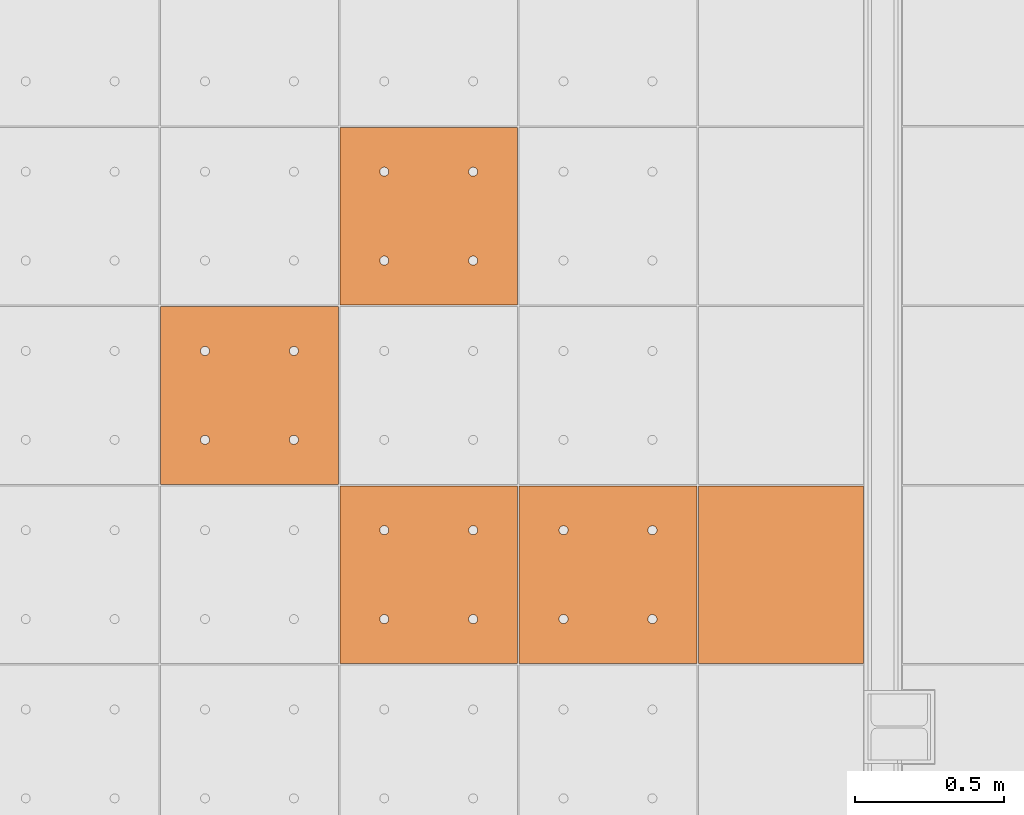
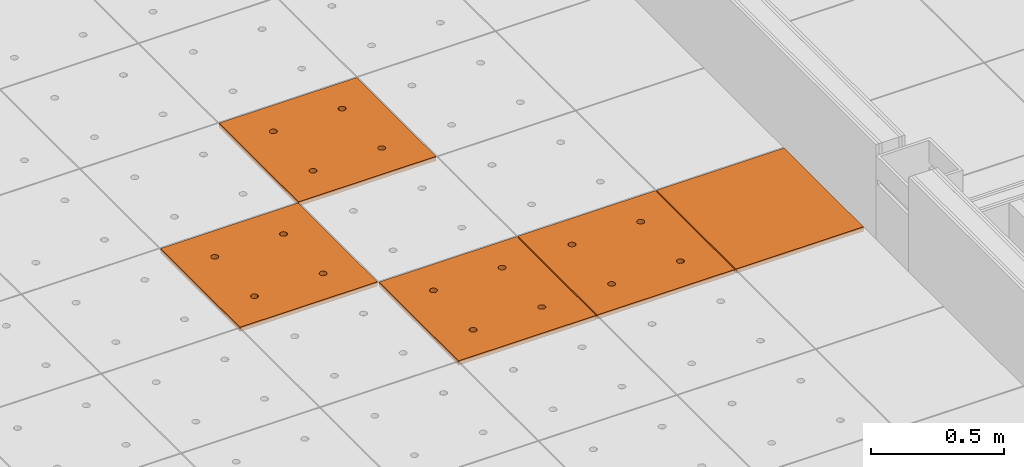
# One storey, part 305 of 338: 5 proxies, 1 element without a shape of its own.
"""IFC2X3 building model written with IfcOpenShell, lengths in millimetres."""

from ifc_helpers import new_model, entity, si_unit, converted_unit, derived_unit, money_unit, direction, frame, origin_with_axes, place, context, subcontext, project, spatial, faceted_brep, source, transform, mapped, material, type_object, type_shapes, element, aggregate, save


model = new_model("IFC2X3")

# Units and contexts
model_context = context("Model", 3, precision=0.01, world=origin_with_axes(), true_north=direction((0.0, 1.0)))
plan_context = context("Plan", 3, precision=0.01, world=origin_with_axes(), true_north=direction((0.0, 1.0)))
body_context = subcontext(model_context, "Body", "Model", "MODEL_VIEW")
ifc_project = project(units=[si_unit("LENGTHUNIT", "METRE", prefix="MILLI"), si_unit("AREAUNIT", "SQUARE_METRE"), si_unit("VOLUMEUNIT", "CUBIC_METRE"), converted_unit("PLANEANGLEUNIT", "DEGREE", entity("IfcPlaneAngleMeasure", 0.0174532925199), si_unit("PLANEANGLEUNIT", "RADIAN"), dimensions=[0, 0, 0, 0, 0, 0, 0]), money_unit("EUR"), converted_unit("TIMEUNIT", "Year", entity("IfcTimeMeasure", 31556926.0), si_unit("TIMEUNIT", "SECOND"), dimensions=[0, 0, 1, 0, 0, 0, 0]), si_unit("MASSUNIT", "GRAM", prefix="KILO"), si_unit("THERMODYNAMICTEMPERATUREUNIT", "DEGREE_CELSIUS"), si_unit("LUMINOUSINTENSITYUNIT", "LUMEN"), si_unit("ENERGYUNIT", "JOULE", prefix="MEGA"), derived_unit("THERMALCONDUCTANCEUNIT", [(si_unit("POWERUNIT", "WATT"), 1), (si_unit("LENGTHUNIT", "METRE"), -1), (si_unit("THERMODYNAMICTEMPERATUREUNIT", "KELVIN"), -1)]), derived_unit("SPECIFICHEATCAPACITYUNIT", [(si_unit("ENERGYUNIT", "JOULE"), 1), (si_unit("MASSUNIT", "GRAM", prefix="KILO"), -1), (si_unit("THERMODYNAMICTEMPERATUREUNIT", "KELVIN"), -1)]), derived_unit("MASSDENSITYUNIT", [(si_unit("MASSUNIT", "GRAM", prefix="KILO"), 1), (si_unit("VOLUMEUNIT", "CUBIC_METRE"), -1)])], contexts=[model_context, plan_context])

# Site, building, storey
site_placement = place(None, origin_with_axes())
site = spatial("IfcSite", under=ifc_project, at=site_placement, Name="Fortuinstraat Woensdrecht", CompositionType="ELEMENT")
building_placement = place(site_placement, origin_with_axes())
building = spatial("IfcBuilding", under=site, at=building_placement, Name="IKC Fortuna", CompositionType="ELEMENT")
storey_placement = place(building_placement, origin_with_axes())
storey = spatial("IfcBuildingStorey", under=building, at=storey_placement, Name="00 begane grond", CompositionType="ELEMENT", Elevation=0.0)

# Covering, proxies
covering_type = type_object("IfcCoveringType", Name="Curtain Wall Type", PredefinedType="CEILING")
covering_placement = place(storey_placement, frame((24394.3550152, 31482.3495284, 3210.0), z_axis=(0.0, 0.0, 1.0), x_axis=(1.0, 0.0, 0.0)))
covering = element("IfcCovering", 1, at=covering_placement, inside=storey, type_object=covering_type, Name="45_Plafondafwerking_P01", PredefinedType="CEILING")
ifc_material = material(Name="Gipsplaat")
building_element_proxy_type_1 = type_object("IfcBuildingElementProxyType", Name="Main Panel 600 x 600 x 20", PredefinedType="NOTDEFINED")
shared_shape_1 = source(origin_with_axes(), body_context, "Body", "Brep", [
    faceted_brep([(2.49999999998, 2.49999999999, -10.0), (300.0, 2.49999999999, -10.0), (300.0, 2.49999999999, 10.0), (2.49999999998, 2.49999999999, 10.0), (2.49999999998, 300.0, -10.0), (2.49999999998, 597.5, -10.0), (300.0, 597.5, -10.0), (597.5, 597.5, -10.0), (597.5, 300.0, -10.0), (597.5, 2.49999999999, -10.0), (166.25, 450.06232995, -10.0), (165.79423259, 452.64711538, -10.0), (164.896546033, 455.11348892, -10.0), (163.58421608, 457.38651108, -10.0), (161.897117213, 459.39711721, -10.0), (159.886511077, 461.08421608, -10.0), (157.613488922, 462.39654603, -10.0), (155.147115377, 463.29423259, -10.0), (152.562329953, 463.75, -10.0), (149.937670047, 463.75, -10.0), (147.352884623, 463.29423259, -10.0), (144.886511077, 462.39654603, -10.0), (142.613488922, 461.08421608, -10.0), (140.602882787, 459.39711721, -10.0), (138.91578392, 457.38651108, -10.0), (137.603453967, 455.11348892, -10.0), (136.705767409, 452.64711538, -10.0), (136.25, 450.06232995, -10.0), (136.25, 448.75, -10.0), (136.25, 447.43767005, -10.0), (136.705767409, 444.85288462, -10.0), (137.603453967, 442.38651108, -10.0), (138.91578392, 440.11348892, -10.0), (140.602882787, 438.10288279, -10.0), (142.613488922, 436.41578392, -10.0), (144.886511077, 435.10345397, -10.0), (147.352884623, 434.20576741, -10.0), (149.937670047, 433.75, -10.0), (152.562329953, 433.75, -10.0), (155.147115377, 434.20576741, -10.0), (157.613488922, 435.10345397, -10.0), (159.886511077, 436.41578392, -10.0), (161.897117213, 438.10288279, -10.0), (163.58421608, 440.11348892, -10.0), (164.896546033, 442.38651108, -10.0), (165.79423259, 444.85288462, -10.0), (166.25, 447.43767005, -10.0), (463.75, 450.06232995, -10.0), (463.29423259, 452.64711538, -10.0), (462.396546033, 455.11348892, -10.0), (461.08421608, 457.38651108, -10.0), (459.397117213, 459.39711721, -10.0), (457.386511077, 461.08421608, -10.0), (455.113488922, 462.39654603, -10.0), (452.647115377, 463.29423259, -10.0), (450.062329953, 463.75, -10.0), (447.437670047, 463.75, -10.0), (444.852884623, 463.29423259, -10.0), (442.386511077, 462.39654603, -10.0), (440.113488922, 461.08421608, -10.0), (438.102882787, 459.39711721, -10.0), (436.41578392, 457.38651108, -10.0), (435.103453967, 455.11348892, -10.0), (434.205767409, 452.64711538, -10.0), (433.75, 450.06232995, -10.0), (433.75, 448.75, -10.0), (433.75, 447.43767005, -10.0), (434.205767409, 444.85288462, -10.0), (435.103453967, 442.38651108, -10.0), (436.41578392, 440.11348892, -10.0), (438.102882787, 438.10288279, -10.0), (440.113488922, 436.41578392, -10.0), (442.386511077, 435.10345397, -10.0), (444.852884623, 434.20576741, -10.0), (447.437670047, 433.75, -10.0), (450.062329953, 433.75, -10.0), (452.647115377, 434.20576741, -10.0), (455.113488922, 435.10345397, -10.0), (457.386511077, 436.41578392, -10.0), (459.397117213, 438.10288279, -10.0), (461.08421608, 440.11348892, -10.0), (462.396546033, 442.38651108, -10.0), (463.29423259, 444.85288462, -10.0), (463.75, 447.43767005, -10.0), (463.75, 152.56232995, -10.0), (463.29423259, 155.14711538, -10.0), (462.396546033, 157.61348892, -10.0), (461.08421608, 159.88651108, -10.0), (459.397117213, 161.89711721, -10.0), (457.386511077, 163.58421608, -10.0), (455.113488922, 164.89654603, -10.0), (452.647115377, 165.79423259, -10.0), (450.062329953, 166.25, -10.0), (447.437670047, 166.25, -10.0), (444.852884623, 165.79423259, -10.0), (442.386511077, 164.89654603, -10.0), (440.113488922, 163.58421608, -10.0), (438.102882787, 161.89711721, -10.0), (436.41578392, 159.88651108, -10.0), (435.103453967, 157.61348892, -10.0), (434.205767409, 155.14711538, -10.0), (433.75, 152.56232995, -10.0), (433.75, 151.25, -10.0), (433.75, 149.93767005, -10.0), (434.205767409, 147.35288462, -10.0), (435.103453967, 144.88651108, -10.0), (436.41578392, 142.61348892, -10.0), (438.102882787, 140.60288279, -10.0), (440.113488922, 138.91578392, -10.0), (442.386511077, 137.60345397, -10.0), (444.852884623, 136.70576741, -10.0), (447.437670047, 136.25, -10.0), (450.062329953, 136.25, -10.0), (452.647115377, 136.70576741, -10.0), (455.113488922, 137.60345397, -10.0), (457.386511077, 138.91578392, -10.0), (459.397117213, 140.60288279, -10.0), (461.08421608, 142.61348892, -10.0), (462.396546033, 144.88651108, -10.0), (463.29423259, 147.35288462, -10.0), (463.75, 149.93767005, -10.0), (166.25, 152.56232995, -10.0), (165.79423259, 155.14711538, -10.0), (164.896546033, 157.61348892, -10.0), (163.58421608, 159.88651108, -10.0), (161.897117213, 161.89711721, -10.0), (159.886511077, 163.58421608, -10.0), (157.613488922, 164.89654603, -10.0), (155.147115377, 165.79423259, -10.0), (152.562329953, 166.25, -10.0), (149.937670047, 166.25, -10.0), (147.352884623, 165.79423259, -10.0), (144.886511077, 164.89654603, -10.0), (142.613488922, 163.58421608, -10.0), (140.602882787, 161.89711721, -10.0), (138.91578392, 159.88651108, -10.0), (137.603453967, 157.61348892, -10.0), (136.705767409, 155.14711538, -10.0), (136.25, 152.56232995, -10.0), (136.25, 151.25, -10.0), (136.25, 149.93767005, -10.0), (136.705767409, 147.35288462, -10.0), (137.603453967, 144.88651108, -10.0), (138.91578392, 142.61348892, -10.0), (140.602882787, 140.60288279, -10.0), (142.613488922, 138.91578392, -10.0), (144.886511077, 137.60345397, -10.0), (147.352884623, 136.70576741, -10.0), (149.937670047, 136.25, -10.0), (152.562329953, 136.25, -10.0), (155.147115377, 136.70576741, -10.0), (157.613488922, 137.60345397, -10.0), (159.886511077, 138.91578392, -10.0), (161.897117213, 140.60288279, -10.0), (163.58421608, 142.61348892, -10.0), (164.896546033, 144.88651108, -10.0), (165.79423259, 147.35288462, -10.0), (166.25, 149.93767005, -10.0), (597.5, 2.49999999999, 10.0), (597.5, 300.0, 10.0), (597.5, 597.5, 10.0), (300.0, 597.5, 10.0), (2.49999999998, 597.5, 10.0), (2.49999999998, 300.0, 10.0), (166.25, 450.06232995, 10.0), (166.25, 447.43767005, 10.0), (165.79423259, 444.85288462, 10.0), (164.896546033, 442.38651108, 10.0), (163.58421608, 440.11348892, 10.0), (161.897117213, 438.10288279, 10.0), (159.886511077, 436.41578392, 10.0), (157.613488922, 435.10345397, 10.0), (155.147115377, 434.20576741, 10.0), (152.562329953, 433.75, 10.0), (149.937670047, 433.75, 10.0), (147.352884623, 434.20576741, 10.0), (144.886511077, 435.10345397, 10.0), (142.613488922, 436.41578392, 10.0), (140.602882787, 438.10288279, 10.0), (138.91578392, 440.11348892, 10.0), (137.603453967, 442.38651108, 10.0), (136.705767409, 444.85288462, 10.0), (136.25, 447.43767005, 10.0), (136.25, 448.75, 10.0), (136.25, 450.06232995, 10.0), (136.705767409, 452.64711538, 10.0), (137.603453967, 455.11348892, 10.0), (138.91578392, 457.38651108, 10.0), (140.602882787, 459.39711721, 10.0), (142.613488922, 461.08421608, 10.0), (144.886511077, 462.39654603, 10.0), (147.352884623, 463.29423259, 10.0), (149.937670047, 463.75, 10.0), (152.562329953, 463.75, 10.0), (155.147115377, 463.29423259, 10.0), (157.613488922, 462.39654603, 10.0), (159.886511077, 461.08421608, 10.0), (161.897117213, 459.39711721, 10.0), (163.58421608, 457.38651108, 10.0), (164.896546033, 455.11348892, 10.0), (165.79423259, 452.64711538, 10.0), (463.75, 450.06232995, 10.0), (463.75, 447.43767005, 10.0), (463.29423259, 444.85288462, 10.0), (462.396546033, 442.38651108, 10.0), (461.08421608, 440.11348892, 10.0), (459.397117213, 438.10288279, 10.0), (457.386511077, 436.41578392, 10.0), (455.113488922, 435.10345397, 10.0), (452.647115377, 434.20576741, 10.0), (450.062329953, 433.75, 10.0), (447.437670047, 433.75, 10.0), (444.852884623, 434.20576741, 10.0), (442.386511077, 435.10345397, 10.0), (440.113488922, 436.41578392, 10.0), (438.102882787, 438.10288279, 10.0), (436.41578392, 440.11348892, 10.0), (435.103453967, 442.38651108, 10.0), (434.205767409, 444.85288462, 10.0), (433.75, 447.43767005, 10.0), (433.75, 448.75, 10.0), (433.75, 450.06232995, 10.0), (434.205767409, 452.64711538, 10.0), (435.103453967, 455.11348892, 10.0), (436.41578392, 457.38651108, 10.0), (438.102882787, 459.39711721, 10.0), (440.113488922, 461.08421608, 10.0), (442.386511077, 462.39654603, 10.0), (444.852884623, 463.29423259, 10.0), (447.437670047, 463.75, 10.0), (450.062329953, 463.75, 10.0), (452.647115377, 463.29423259, 10.0), (455.113488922, 462.39654603, 10.0), (457.386511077, 461.08421608, 10.0), (459.397117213, 459.39711721, 10.0), (461.08421608, 457.38651108, 10.0), (462.396546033, 455.11348892, 10.0), (463.29423259, 452.64711538, 10.0), (463.75, 152.56232995, 10.0), (463.75, 149.93767005, 10.0), (463.29423259, 147.35288462, 10.0), (462.396546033, 144.88651108, 10.0), (461.08421608, 142.61348892, 10.0), (459.397117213, 140.60288279, 10.0), (457.386511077, 138.91578392, 10.0), (455.113488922, 137.60345397, 10.0), (452.647115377, 136.70576741, 10.0), (450.062329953, 136.25, 10.0), (447.437670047, 136.25, 10.0), (444.852884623, 136.70576741, 10.0), (442.386511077, 137.60345397, 10.0), (440.113488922, 138.91578392, 10.0), (438.102882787, 140.60288279, 10.0), (436.41578392, 142.61348892, 10.0), (435.103453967, 144.88651108, 10.0), (434.205767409, 147.35288462, 10.0), (433.75, 149.93767005, 10.0), (433.75, 151.25, 10.0), (433.75, 152.56232995, 10.0), (434.205767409, 155.14711538, 10.0), (435.103453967, 157.61348892, 10.0), (436.41578392, 159.88651108, 10.0), (438.102882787, 161.89711721, 10.0), (440.113488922, 163.58421608, 10.0), (442.386511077, 164.89654603, 10.0), (444.852884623, 165.79423259, 10.0), (447.437670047, 166.25, 10.0), (450.062329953, 166.25, 10.0), (452.647115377, 165.79423259, 10.0), (455.113488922, 164.89654603, 10.0), (457.386511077, 163.58421608, 10.0), (459.397117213, 161.89711721, 10.0), (461.08421608, 159.88651108, 10.0), (462.396546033, 157.61348892, 10.0), (463.29423259, 155.14711538, 10.0), (166.25, 152.56232995, 10.0), (166.25, 149.93767005, 10.0), (165.79423259, 147.35288462, 10.0), (164.896546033, 144.88651108, 10.0), (163.58421608, 142.61348892, 10.0), (161.897117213, 140.60288279, 10.0), (159.886511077, 138.91578392, 10.0), (157.613488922, 137.60345397, 10.0), (155.147115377, 136.70576741, 10.0), (152.562329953, 136.25, 10.0), (149.937670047, 136.25, 10.0), (147.352884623, 136.70576741, 10.0), (144.886511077, 137.60345397, 10.0), (142.613488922, 138.91578392, 10.0), (140.602882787, 140.60288279, 10.0), (138.91578392, 142.61348892, 10.0), (137.603453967, 144.88651108, 10.0), (136.705767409, 147.35288462, 10.0), (136.25, 149.93767005, 10.0), (136.25, 151.25, 10.0), (136.25, 152.56232995, 10.0), (136.705767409, 155.14711538, 10.0), (137.603453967, 157.61348892, 10.0), (138.91578392, 159.88651108, 10.0), (140.602882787, 161.89711721, 10.0), (142.613488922, 163.58421608, 10.0), (144.886511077, 164.89654603, 10.0), (147.352884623, 165.79423259, 10.0), (149.937670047, 166.25, 10.0), (152.562329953, 166.25, 10.0), (155.147115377, 165.79423259, 10.0), (157.613488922, 164.89654603, 10.0), (159.886511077, 163.58421608, 10.0), (161.897117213, 161.89711721, 10.0), (163.58421608, 159.88651108, 10.0), (164.896546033, 157.61348892, 10.0), (165.79423259, 155.14711538, 10.0)], [[[0, 1, 2, 3]], [[0, 4, 5, 6, 7, 8, 9, 1], [10, 11, 12, 13, 14, 15, 16, 17, 18, 19, 20, 21, 22, 23, 24, 25, 26, 27, 28, 29, 30, 31, 32, 33, 34, 35, 36, 37, 38, 39, 40, 41, 42, 43, 44, 45, 46], [47, 48, 49, 50, 51, 52, 53, 54, 55, 56, 57, 58, 59, 60, 61, 62, 63, 64, 65, 66, 67, 68, 69, 70, 71, 72, 73, 74, 75, 76, 77, 78, 79, 80, 81, 82, 83], [84, 85, 86, 87, 88, 89, 90, 91, 92, 93, 94, 95, 96, 97, 98, 99, 100, 101, 102, 103, 104, 105, 106, 107, 108, 109, 110, 111, 112, 113, 114, 115, 116, 117, 118, 119, 120], [121, 122, 123, 124, 125, 126, 127, 128, 129, 130, 131, 132, 133, 134, 135, 136, 137, 138, 139, 140, 141, 142, 143, 144, 145, 146, 147, 148, 149, 150, 151, 152, 153, 154, 155, 156, 157]], [[1, 9, 158, 2]], [[3, 2, 158, 159, 160, 161, 162, 163], [164, 165, 166, 167, 168, 169, 170, 171, 172, 173, 174, 175, 176, 177, 178, 179, 180, 181, 182, 183, 184, 185, 186, 187, 188, 189, 190, 191, 192, 193, 194, 195, 196, 197, 198, 199, 200], [201, 202, 203, 204, 205, 206, 207, 208, 209, 210, 211, 212, 213, 214, 215, 216, 217, 218, 219, 220, 221, 222, 223, 224, 225, 226, 227, 228, 229, 230, 231, 232, 233, 234, 235, 236, 237], [238, 239, 240, 241, 242, 243, 244, 245, 246, 247, 248, 249, 250, 251, 252, 253, 254, 255, 256, 257, 258, 259, 260, 261, 262, 263, 264, 265, 266, 267, 268, 269, 270, 271, 272, 273, 274], [275, 276, 277, 278, 279, 280, 281, 282, 283, 284, 285, 286, 287, 288, 289, 290, 291, 292, 293, 294, 295, 296, 297, 298, 299, 300, 301, 302, 303, 304, 305, 306, 307, 308, 309, 310, 311]], [[4, 0, 3, 163]], [[5, 4, 163, 162]], [[6, 5, 162, 161]], [[7, 6, 161, 160]], [[8, 7, 160, 159]], [[9, 8, 159, 158]], [[11, 10, 164, 200]], [[12, 11, 200, 199]], [[13, 12, 199, 198]], [[14, 13, 198, 197]], [[15, 14, 197, 196]], [[16, 15, 196, 195]], [[17, 16, 195, 194]], [[18, 17, 194, 193]], [[19, 18, 193, 192]], [[20, 19, 192, 191]], [[21, 20, 191, 190]], [[22, 21, 190, 189]], [[23, 22, 189, 188]], [[24, 23, 188, 187]], [[25, 24, 187, 186]], [[26, 25, 186, 185]], [[27, 26, 185, 184]], [[28, 27, 184, 183]], [[29, 28, 183, 182]], [[30, 29, 182, 181]], [[31, 30, 181, 180]], [[32, 31, 180, 179]], [[33, 32, 179, 178]], [[34, 33, 178, 177]], [[35, 34, 177, 176]], [[36, 35, 176, 175]], [[37, 36, 175, 174]], [[38, 37, 174, 173]], [[39, 38, 173, 172]], [[40, 39, 172, 171]], [[41, 40, 171, 170]], [[42, 41, 170, 169]], [[43, 42, 169, 168]], [[44, 43, 168, 167]], [[45, 44, 167, 166]], [[46, 45, 166, 165]], [[10, 46, 165, 164]], [[48, 47, 201, 237]], [[49, 48, 237, 236]], [[50, 49, 236, 235]], [[51, 50, 235, 234]], [[52, 51, 234, 233]], [[53, 52, 233, 232]], [[54, 53, 232, 231]], [[55, 54, 231, 230]], [[56, 55, 230, 229]], [[57, 56, 229, 228]], [[58, 57, 228, 227]], [[59, 58, 227, 226]], [[60, 59, 226, 225]], [[61, 60, 225, 224]], [[62, 61, 224, 223]], [[63, 62, 223, 222]], [[64, 63, 222, 221]], [[65, 64, 221, 220]], [[66, 65, 220, 219]], [[67, 66, 219, 218]], [[68, 67, 218, 217]], [[69, 68, 217, 216]], [[70, 69, 216, 215]], [[71, 70, 215, 214]], [[72, 71, 214, 213]], [[73, 72, 213, 212]], [[74, 73, 212, 211]], [[75, 74, 211, 210]], [[76, 75, 210, 209]], [[77, 76, 209, 208]], [[78, 77, 208, 207]], [[79, 78, 207, 206]], [[80, 79, 206, 205]], [[81, 80, 205, 204]], [[82, 81, 204, 203]], [[83, 82, 203, 202]], [[47, 83, 202, 201]], [[85, 84, 238, 274]], [[86, 85, 274, 273]], [[87, 86, 273, 272]], [[88, 87, 272, 271]], [[89, 88, 271, 270]], [[90, 89, 270, 269]], [[91, 90, 269, 268]], [[92, 91, 268, 267]], [[93, 92, 267, 266]], [[94, 93, 266, 265]], [[95, 94, 265, 264]], [[96, 95, 264, 263]], [[97, 96, 263, 262]], [[98, 97, 262, 261]], [[99, 98, 261, 260]], [[100, 99, 260, 259]], [[101, 100, 259, 258]], [[102, 101, 258, 257]], [[103, 102, 257, 256]], [[104, 103, 256, 255]], [[105, 104, 255, 254]], [[106, 105, 254, 253]], [[107, 106, 253, 252]], [[108, 107, 252, 251]], [[109, 108, 251, 250]], [[110, 109, 250, 249]], [[111, 110, 249, 248]], [[112, 111, 248, 247]], [[113, 112, 247, 246]], [[114, 113, 246, 245]], [[115, 114, 245, 244]], [[116, 115, 244, 243]], [[117, 116, 243, 242]], [[118, 117, 242, 241]], [[119, 118, 241, 240]], [[120, 119, 240, 239]], [[84, 120, 239, 238]], [[122, 121, 275, 311]], [[123, 122, 311, 310]], [[124, 123, 310, 309]], [[125, 124, 309, 308]], [[126, 125, 308, 307]], [[127, 126, 307, 306]], [[128, 127, 306, 305]], [[129, 128, 305, 304]], [[130, 129, 304, 303]], [[131, 130, 303, 302]], [[132, 131, 302, 301]], [[133, 132, 301, 300]], [[134, 133, 300, 299]], [[135, 134, 299, 298]], [[136, 135, 298, 297]], [[137, 136, 297, 296]], [[138, 137, 296, 295]], [[139, 138, 295, 294]], [[140, 139, 294, 293]], [[141, 140, 293, 292]], [[142, 141, 292, 291]], [[143, 142, 291, 290]], [[144, 143, 290, 289]], [[145, 144, 289, 288]], [[146, 145, 288, 287]], [[147, 146, 287, 286]], [[148, 147, 286, 285]], [[149, 148, 285, 284]], [[150, 149, 284, 283]], [[151, 150, 283, 282]], [[152, 151, 282, 281]], [[153, 152, 281, 280]], [[154, 153, 280, 279]], [[155, 154, 279, 278]], [[156, 155, 278, 277]], [[157, 156, 277, 276]], [[121, 157, 276, 275]]]),
])
type_shapes(building_element_proxy_type_1, [shared_shape_1])
proxy_1_placement = place(covering_placement, frame((3000.0, 1800.0, 0.0), z_axis=(0.0, 0.0, 1.0), x_axis=(1.0, 0.0, 0.0)))
proxy_1 = element("IfcBuildingElementProxy", 2, at=proxy_1_placement, type_object=building_element_proxy_type_1, material=ifc_material, Name="__600x611 Rockfon Krios", context=body_context, shape_type="MappedRepresentation", body=[
    mapped(shared_shape_1, transform((300.0, 300.0, 0.0), x_axis=(-1.0, 0.0, 0.0), y_axis=(0.0, -1.0, 0.0), z_axis=(0.0, 0.0, 1.0))),
])
proxy_2_placement = place(covering_placement, frame((3600.0, 600.0, 0.0), z_axis=(0.0, 0.0, 1.0), x_axis=(1.0, 0.0, 0.0)))
proxy_2 = element("IfcBuildingElementProxy", 3, at=proxy_2_placement, type_object=building_element_proxy_type_1, material=ifc_material, Name="__600x674 Rockfon Krios", context=body_context, shape_type="MappedRepresentation", body=[
    mapped(shared_shape_1, transform((300.0, 300.0, 0.0), x_axis=(-1.0, 0.0, 0.0), y_axis=(0.0, -1.0, 0.0), z_axis=(0.0, 0.0, 1.0))),
])
proxy_3_placement = place(covering_placement, frame((3000.0, 600.0, 0.0), z_axis=(0.0, 0.0, 1.0), x_axis=(1.0, 0.0, 0.0)))
proxy_3 = element("IfcBuildingElementProxy", 4, at=proxy_3_placement, type_object=building_element_proxy_type_1, material=ifc_material, Name="__600x683 Rockfon Krios", context=body_context, shape_type="MappedRepresentation", body=[
    mapped(shared_shape_1, transform((300.0, 300.0, 0.0), x_axis=(-1.0, 0.0, 0.0), y_axis=(0.0, -1.0, 0.0), z_axis=(0.0, 0.0, 1.0))),
])
proxy_4_placement = place(covering_placement, frame((2400.0, 1200.0, 0.0), z_axis=(0.0, 0.0, 1.0), x_axis=(1.0, 0.0, 0.0)))
proxy_4 = element("IfcBuildingElementProxy", 5, at=proxy_4_placement, type_object=building_element_proxy_type_1, material=ifc_material, Name="__600x691 Rockfon Krios", context=body_context, shape_type="MappedRepresentation", body=[
    mapped(shared_shape_1, transform((300.0, 300.0, 0.0), x_axis=(-1.0, 0.0, 0.0), y_axis=(0.0, -1.0, 0.0), z_axis=(0.0, 0.0, 1.0))),
])
building_element_proxy_type_2 = type_object("IfcBuildingElementProxyType", Name="558 x 600 x 20", PredefinedType="NOTDEFINED")
shared_shape_2 = source(origin_with_axes(), body_context, "Body", "Brep", [
    faceted_brep([(44.9200611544, 2.5, -10.0), (597.5, 2.49999999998, -10.0), (597.5, 2.49999999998, 10.0), (44.9200611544, 2.5, 10.0), (44.9200164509, 597.5, -10.0), (597.5, 597.5, -10.0), (597.5, 597.5, 10.0), (44.9200164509, 597.5, 10.0)], [[[0, 1, 2, 3]], [[0, 4, 5, 1]], [[1, 5, 6, 2]], [[3, 2, 6, 7]], [[4, 0, 3, 7]], [[5, 4, 7, 6]]]),
])
type_shapes(building_element_proxy_type_2, [shared_shape_2])
proxy_5_placement = place(covering_placement, frame((4178.78999197, 600.0, 0.0), z_axis=(0.0, 0.0, 1.0), x_axis=(1.0, 0.0, 0.0)))
proxy_5 = element("IfcBuildingElementProxy", 6, at=proxy_5_placement, type_object=building_element_proxy_type_2, material=ifc_material, Name="__600x699 Rockfon Krios", context=body_context, shape_type="MappedRepresentation", body=[
    mapped(shared_shape_2, transform((321.210008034, 300.0, 0.0), x_axis=(-1.0, 0.0, 0.0), y_axis=(0.0, -1.0, 0.0), z_axis=(0.0, 0.0, 1.0))),
])
aggregate(covering, [proxy_1, proxy_2, proxy_3, proxy_4, proxy_5])

save(model, "model.ifc")
